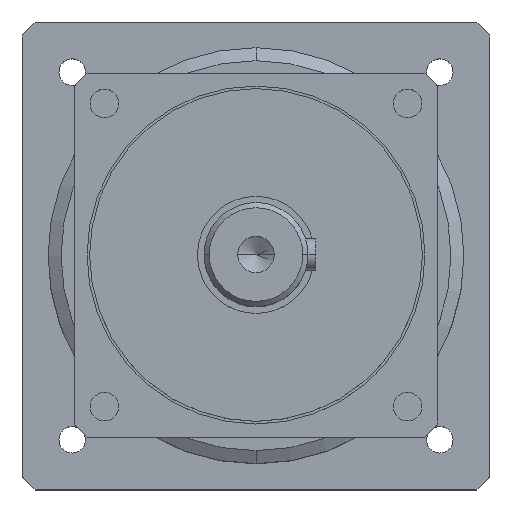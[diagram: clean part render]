
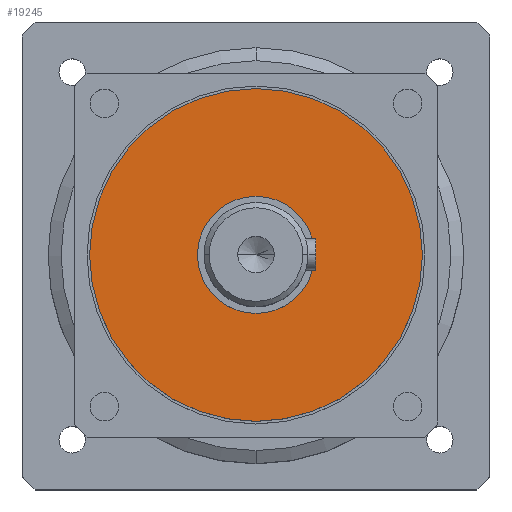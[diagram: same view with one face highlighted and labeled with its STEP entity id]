
A CAD part, top view. The second image highlights one B-rep face of the part: STEP entity #19245.
In plain terms, the highlighted planar face has unit normal (0, 0, 1).
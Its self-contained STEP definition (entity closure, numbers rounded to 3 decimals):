
#784 = DIRECTION ( 'NONE',  ( -1., 0., 0. ) ) ;
#1016 = DIRECTION ( 'NONE',  ( 1., 0., 0. ) ) ;
#2227 = FACE_BOUND ( 'NONE', #27682, .T. ) ;
#2486 = ORIENTED_EDGE ( 'NONE', *, *, #13223, .T. ) ;
#2970 = EDGE_CURVE ( 'NONE', #6059, #22614, #14919, .T. ) ;
#3661 = CIRCLE ( 'NONE', #24287, 22.5 ) ;
#4968 = CARTESIAN_POINT ( 'NONE',  ( 22.5, 0., 8. ) ) ;
#5820 = CIRCLE ( 'NONE', #16828, 64. ) ;
#6059 = VERTEX_POINT ( 'NONE', #8946 ) ;
#7981 = ORIENTED_EDGE ( 'NONE', *, *, #29403, .T. ) ;
#8586 = CARTESIAN_POINT ( 'NONE',  ( 0., 0., 8. ) ) ;
#8946 = CARTESIAN_POINT ( 'NONE',  ( 64., 0., 8. ) ) ;
#10303 = DIRECTION ( 'NONE',  ( 0., 0., -1. ) ) ;
#11057 = DIRECTION ( 'NONE',  ( 1., 0., 0. ) ) ;
#12211 = CARTESIAN_POINT ( 'NONE',  ( 0., 0., 8. ) ) ;
#12821 = AXIS2_PLACEMENT_3D ( 'NONE', #30853, #15874, #1016 ) ;
#13028 = CARTESIAN_POINT ( 'NONE',  ( -22.5, 0., 8. ) ) ;
#13223 = EDGE_CURVE ( 'NONE', #28746, #18579, #18291, .T. ) ;
#13289 = PLANE ( 'NONE',  #12821 ) ;
#14650 = DIRECTION ( 'NONE',  ( 1., 0., 0. ) ) ;
#14919 = CIRCLE ( 'NONE', #26868, 64. ) ;
#15644 = DIRECTION ( 'NONE',  ( 0., 0., -1. ) ) ;
#15874 = DIRECTION ( 'NONE',  ( 0., 0., 1. ) ) ;
#16828 = AXIS2_PLACEMENT_3D ( 'NONE', #8586, #25934, #11057 ) ;
#18291 = CIRCLE ( 'NONE', #26627, 22.5 ) ;
#18579 = VERTEX_POINT ( 'NONE', #4968 ) ;
#19245 = ADVANCED_FACE ( 'NONE', ( #2227, #28658 ), #13289, .T. ) ;
#21266 = EDGE_LOOP ( 'NONE', ( #21598, #25343 ) ) ;
#21598 = ORIENTED_EDGE ( 'NONE', *, *, #2970, .F. ) ;
#22614 = VERTEX_POINT ( 'NONE', #29046 ) ;
#24287 = AXIS2_PLACEMENT_3D ( 'NONE', #25194, #10303, #27726 ) ;
#25194 = CARTESIAN_POINT ( 'NONE',  ( 0., 0., 8. ) ) ;
#25343 = ORIENTED_EDGE ( 'NONE', *, *, #31255, .F. ) ;
#25934 = DIRECTION ( 'NONE',  ( 0., 0., -1. ) ) ;
#26627 = AXIS2_PLACEMENT_3D ( 'NONE', #30608, #15644, #784 ) ;
#26868 = AXIS2_PLACEMENT_3D ( 'NONE', #12211, #29590, #14650 ) ;
#27682 = EDGE_LOOP ( 'NONE', ( #2486, #7981 ) ) ;
#27726 = DIRECTION ( 'NONE',  ( -1., 0., 0. ) ) ;
#28658 = FACE_OUTER_BOUND ( 'NONE', #21266, .T. ) ;
#28746 = VERTEX_POINT ( 'NONE', #13028 ) ;
#29046 = CARTESIAN_POINT ( 'NONE',  ( -64., 0., 8. ) ) ;
#29403 = EDGE_CURVE ( 'NONE', #18579, #28746, #3661, .T. ) ;
#29590 = DIRECTION ( 'NONE',  ( 0., 0., -1. ) ) ;
#30608 = CARTESIAN_POINT ( 'NONE',  ( 0., 0., 8. ) ) ;
#30853 = CARTESIAN_POINT ( 'NONE',  ( 0., 0., 8. ) ) ;
#31255 = EDGE_CURVE ( 'NONE', #22614, #6059, #5820, .T. ) ;
